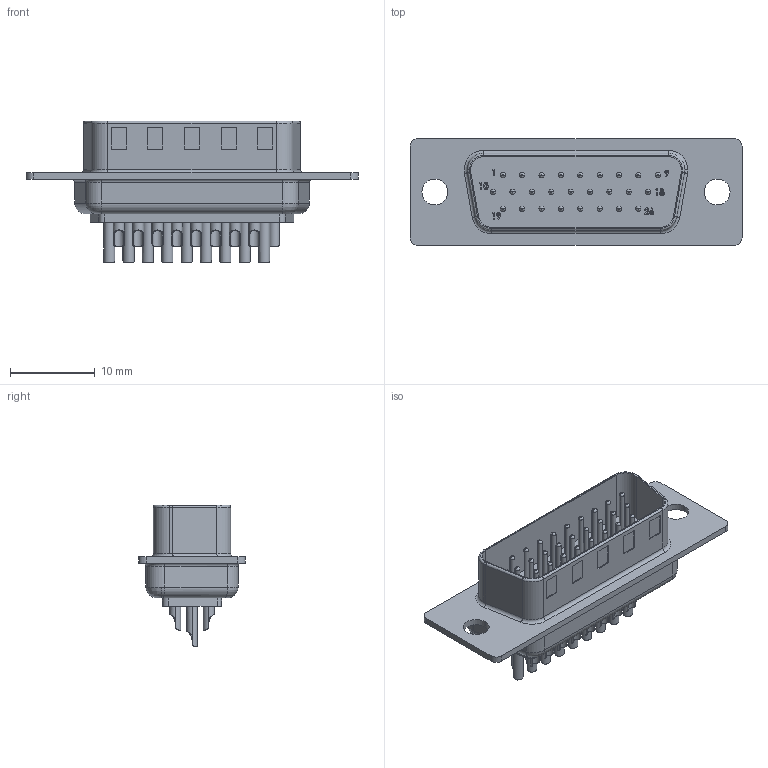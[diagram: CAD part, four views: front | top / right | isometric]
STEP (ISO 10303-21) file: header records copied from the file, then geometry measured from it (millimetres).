
FILE_DESCRIPTION(('FreeCAD Model'),'2;1');
FILE_NAME('C:/Users/Metaltex-99/Desktop/Arquivos novos/DBA/DBAM-26.stp', '2021-04-20T08:52:34',('Engenharia Metaltex'),('Metaltex'), 'Open CASCADE STEP processor 7.3','FreeCAD','Unknown');
FILE_SCHEMA(('AUTOMOTIVE_DESIGN { 1 0 10303 214 1 1 1 1 }'));
Products named in the file (1): DBAM-26
Bounding box: 39.19 x 12.6 x 16.74 mm (x, y, z)
Volume: 1851 mm3; surface area: 3001.9 mm2
Topology: 1 solids, 1 shells, 825 faces, 1985 edges, 1260 vertices
Faces by surface type: plane 344, cylinder 297, bspline 112, revolution 57, torus 15
Entity records: 69844 total; most frequent: CARTESIAN_POINT 31869, DIRECTION 6299, ORIENTED_EDGE 3970, PCURVE 3970, DEFINITIONAL_REPRESENTATION 3970, LINE 3739, VECTOR 3739, EDGE_CURVE 1985
